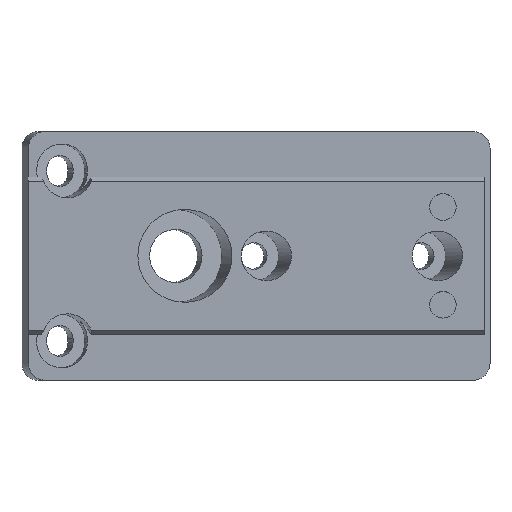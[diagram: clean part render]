
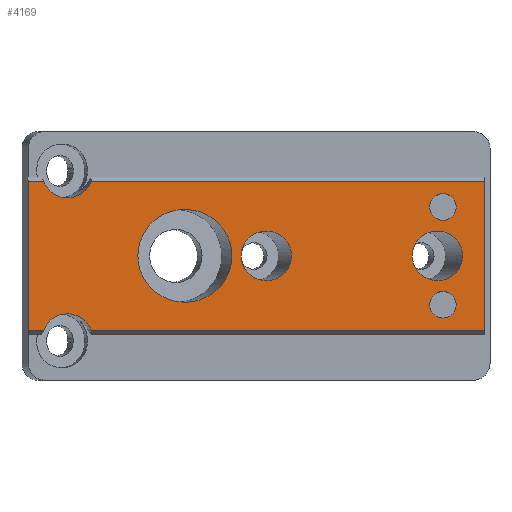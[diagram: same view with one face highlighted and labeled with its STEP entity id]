
A CAD part, top view. The second image highlights one B-rep face of the part: STEP entity #4169.
In plain terms, the highlighted planar face has unit normal (0, 0, 1).
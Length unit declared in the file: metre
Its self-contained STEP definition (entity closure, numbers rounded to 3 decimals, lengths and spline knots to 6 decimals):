
#222=ELLIPSE('',#4439,0.00567,0.0056);
#223=ELLIPSE('',#4440,0.003037,0.003);
#224=ELLIPSE('',#4441,0.003037,0.003);
#225=ELLIPSE('',#4444,0.003037,0.003);
#226=ELLIPSE('',#4445,0.003037,0.003);
#306=CIRCLE('',#4442,0.0016);
#307=CIRCLE('',#4443,0.0016);
#401=ORIENTED_EDGE('',*,*,#1671,.T.);
#402=ORIENTED_EDGE('',*,*,#1672,.T.);
#403=ORIENTED_EDGE('',*,*,#1673,.T.);
#404=ORIENTED_EDGE('',*,*,#1674,.T.);
#405=ORIENTED_EDGE('',*,*,#1675,.T.);
#406=ORIENTED_EDGE('',*,*,#1676,.F.);
#407=ORIENTED_EDGE('',*,*,#1677,.T.);
#408=ORIENTED_EDGE('',*,*,#1678,.F.);
#409=ORIENTED_EDGE('',*,*,#1679,.T.);
#410=ORIENTED_EDGE('',*,*,#1680,.F.);
#411=ORIENTED_EDGE('',*,*,#1681,.T.);
#412=ORIENTED_EDGE('',*,*,#1682,.T.);
#413=ORIENTED_EDGE('',*,*,#1683,.T.);
#1671=EDGE_CURVE('',#2306,#2306,#222,.T.);
#1672=EDGE_CURVE('',#2307,#2307,#223,.T.);
#1673=EDGE_CURVE('',#2308,#2308,#224,.T.);
#1674=EDGE_CURVE('',#2309,#2309,#306,.T.);
#1675=EDGE_CURVE('',#2310,#2310,#307,.T.);
#1676=EDGE_CURVE('',#2311,#2312,#225,.F.);
#1677=EDGE_CURVE('',#2311,#2313,#2715,.T.);
#1678=EDGE_CURVE('',#2314,#2313,#2716,.T.);
#1679=EDGE_CURVE('',#2314,#2315,#2717,.T.);
#1680=EDGE_CURVE('',#2316,#2315,#226,.F.);
#1681=EDGE_CURVE('',#2316,#2317,#2718,.T.);
#1682=EDGE_CURVE('',#2317,#2318,#2719,.T.);
#1683=EDGE_CURVE('',#2318,#2312,#2720,.T.);
#2306=VERTEX_POINT('',#5694);
#2307=VERTEX_POINT('',#5696);
#2308=VERTEX_POINT('',#5698);
#2309=VERTEX_POINT('',#5700);
#2310=VERTEX_POINT('',#5702);
#2311=VERTEX_POINT('',#5704);
#2312=VERTEX_POINT('',#5705);
#2313=VERTEX_POINT('',#5707);
#2314=VERTEX_POINT('',#5709);
#2315=VERTEX_POINT('',#5711);
#2316=VERTEX_POINT('',#5713);
#2317=VERTEX_POINT('',#5715);
#2318=VERTEX_POINT('',#5717);
#2715=LINE('',#5706,#3114);
#2716=LINE('',#5708,#3115);
#2717=LINE('',#5710,#3116);
#2718=LINE('',#5714,#3117);
#2719=LINE('',#5716,#3118);
#2720=LINE('',#5718,#3119);
#3114=VECTOR('',#4761,1.);
#3115=VECTOR('',#4762,1.);
#3116=VECTOR('',#4763,1.);
#3117=VECTOR('',#4766,1.);
#3118=VECTOR('',#4767,1.);
#3119=VECTOR('',#4768,1.);
#3500=EDGE_LOOP('',(#401));
#3501=EDGE_LOOP('',(#402));
#3502=EDGE_LOOP('',(#403));
#3503=EDGE_LOOP('',(#404));
#3504=EDGE_LOOP('',(#405));
#3505=EDGE_LOOP('',(#406,#407,#408,#409,#410,#411,#412,#413));
#3775=FACE_BOUND('',#3500,.T.);
#3776=FACE_BOUND('',#3501,.T.);
#3777=FACE_BOUND('',#3502,.T.);
#3778=FACE_BOUND('',#3503,.T.);
#3779=FACE_BOUND('',#3504,.T.);
#3780=FACE_BOUND('',#3505,.T.);
#4042=PLANE('',#4438);
#4169=ADVANCED_FACE('',(#3775,#3776,#3777,#3778,#3779,#3780),#4042,.F.);
#4438=AXIS2_PLACEMENT_3D('',#5692,#4747,#4748);
#4439=AXIS2_PLACEMENT_3D('',#5693,#4749,#4750);
#4440=AXIS2_PLACEMENT_3D('',#5695,#4751,#4752);
#4441=AXIS2_PLACEMENT_3D('',#5697,#4753,#4754);
#4442=AXIS2_PLACEMENT_3D('',#5699,#4755,#4756);
#4443=AXIS2_PLACEMENT_3D('',#5701,#4757,#4758);
#4444=AXIS2_PLACEMENT_3D('',#5703,#4759,#4760);
#4445=AXIS2_PLACEMENT_3D('',#5712,#4764,#4765);
#4747=DIRECTION('',(0.,0.,-1.));
#4748=DIRECTION('',(-1.,0.,0.));
#4749=DIRECTION('',(0.,0.,-1.));
#4750=DIRECTION('',(-1.,0.,0.));
#4751=DIRECTION('',(0.,0.,-1.));
#4752=DIRECTION('',(-1.,0.,0.));
#4753=DIRECTION('',(0.,0.,-1.));
#4754=DIRECTION('',(-1.,0.,0.));
#4755=DIRECTION('',(0.,0.,-1.));
#4756=DIRECTION('',(-1.,0.,0.));
#4757=DIRECTION('',(0.,0.,-1.));
#4758=DIRECTION('',(-1.,0.,0.));
#4759=DIRECTION('',(0.,0.,-1.));
#4760=DIRECTION('',(-1.,0.,0.));
#4761=DIRECTION('',(1.,0.,0.));
#4762=DIRECTION('',(0.,-1.,0.));
#4763=DIRECTION('',(-1.,0.,0.));
#4764=DIRECTION('',(0.,0.,-1.));
#4765=DIRECTION('',(-1.,0.,0.));
#4766=DIRECTION('',(-1.,0.,0.));
#4767=DIRECTION('',(0.,-1.,0.));
#4768=DIRECTION('',(1.,0.,0.));
#5692=CARTESIAN_POINT('',(0.055,0.,0.0041));
#5693=CARTESIAN_POINT('',(0.018874,0.,0.0041));
#5694=CARTESIAN_POINT('',(0.013204,0.,0.0041));
#5695=CARTESIAN_POINT('',(0.049349,0.,0.0041));
#5696=CARTESIAN_POINT('',(0.046312,0.,0.0041));
#5697=CARTESIAN_POINT('',(0.028695,0.,0.0041));
#5698=CARTESIAN_POINT('',(0.025657,0.,0.0041));
#5699=CARTESIAN_POINT('',(0.05,0.0059,0.0041));
#5700=CARTESIAN_POINT('',(0.0484,0.0059,0.0041));
#5701=CARTESIAN_POINT('',(0.05,-0.0059,0.0041));
#5702=CARTESIAN_POINT('',(0.0484,-0.0059,0.0041));
#5703=CARTESIAN_POINT('',(0.004699,-0.01,0.0041));
#5704=CARTESIAN_POINT('',(0.007564,-0.009004,0.0041));
#5705=CARTESIAN_POINT('',(0.001834,-0.009004,0.0041));
#5706=CARTESIAN_POINT('',(0.055,-0.009004,0.0041));
#5707=CARTESIAN_POINT('',(0.055,-0.009004,0.0041));
#5708=CARTESIAN_POINT('',(0.055,0.,0.0041));
#5709=CARTESIAN_POINT('',(0.055,0.009004,0.0041));
#5710=CARTESIAN_POINT('',(0.,0.009004,0.0041));
#5711=CARTESIAN_POINT('',(0.007564,0.009004,0.0041));
#5712=CARTESIAN_POINT('',(0.004699,0.01,0.0041));
#5713=CARTESIAN_POINT('',(0.001834,0.009004,0.0041));
#5714=CARTESIAN_POINT('',(0.,0.009004,0.0041));
#5715=CARTESIAN_POINT('',(0.,0.009004,0.0041));
#5716=CARTESIAN_POINT('',(0.,0.,0.0041));
#5717=CARTESIAN_POINT('',(0.,-0.009004,0.0041));
#5718=CARTESIAN_POINT('',(0.055,-0.009004,0.0041));
